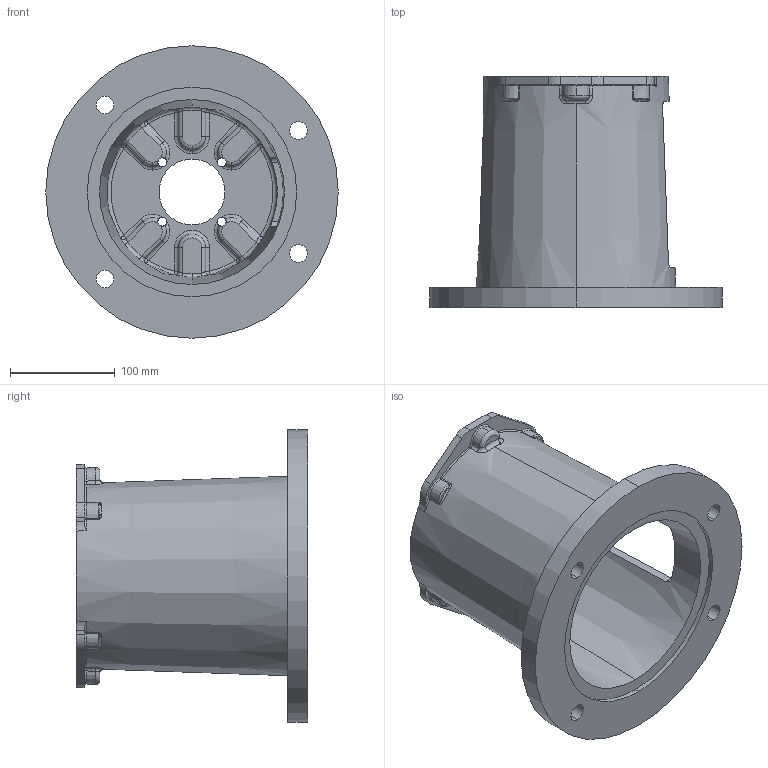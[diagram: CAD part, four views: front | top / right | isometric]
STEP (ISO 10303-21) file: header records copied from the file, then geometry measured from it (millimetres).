
FILE_DESCRIPTION (( 'STEP AP203' ), '1' );
FILE_NAME ('E7878663MS.STEP', '2014-11-04T15:56:13', ( '' ), ( '' ), 'SwSTEP 2.0', 'SolidWorks 2014', '' );
FILE_SCHEMA (( 'CONFIG_CONTROL_DESIGN' ));
Length unit declared in the file: inch
Products named in the file (1): E7878663MS
Bounding box: 279.4 x 220.73 x 279.4 mm (x, y, z)
Volume: 1668442.6 mm3; surface area: 354508.5 mm2
Topology: 1 solids, 1 shells, 346 faces, 884 edges, 527 vertices
Faces by surface type: torus 109, cylinder 82, bspline 64, plane 45, sphere 24, cone 22
Entity records: 13863 total; most frequent: CARTESIAN_POINT 5792, ORIENTED_EDGE 1744, DIRECTION 1702, EDGE_CURVE 872, AXIS2_PLACEMENT_3D 773, VERTEX_POINT 527, CIRCLE 490, EDGE_LOOP 365
